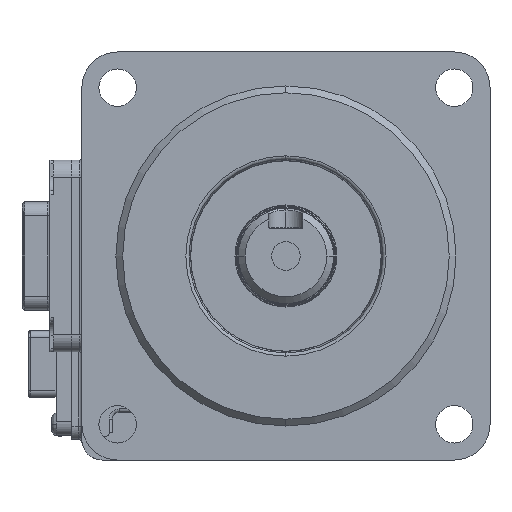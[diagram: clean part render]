
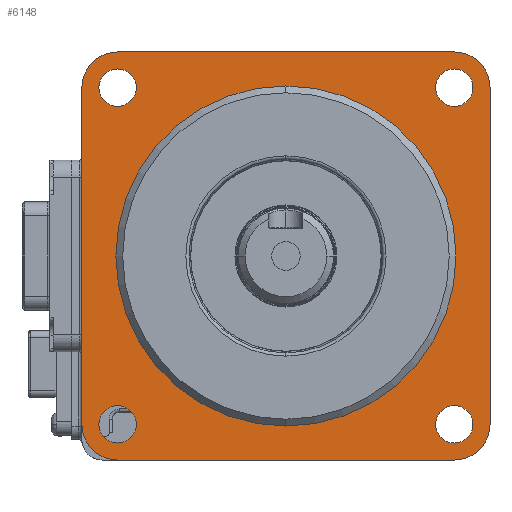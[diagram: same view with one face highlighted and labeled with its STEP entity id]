
A CAD part, left-side view. The second image highlights one B-rep face of the part: STEP entity #6148.
In plain terms, the highlighted planar face has unit normal (-1, 0, 0).
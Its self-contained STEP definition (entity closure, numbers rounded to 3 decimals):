
#2687 = VERTEX_POINT('',#2688);
#2688 = CARTESIAN_POINT('',(30.,24.749,27.499));
#2694 = EDGE_CURVE('',#2695,#2687,#2697,.T.);
#2695 = VERTEX_POINT('',#2696);
#2696 = CARTESIAN_POINT('',(30.,24.749,21.999));
#2697 = CIRCLE('',#2698,2.75);
#2698 = AXIS2_PLACEMENT_3D('',#2699,#2700,#2701);
#2699 = CARTESIAN_POINT('',(30.,24.749,24.749));
#2700 = DIRECTION('',(-1.,0.,0.));
#2701 = DIRECTION('',(0.,0.,-1.));
#2729 = VERTEX_POINT('',#2730);
#2730 = CARTESIAN_POINT('',(30.,-24.749,27.499));
#2736 = EDGE_CURVE('',#2737,#2729,#2739,.T.);
#2737 = VERTEX_POINT('',#2738);
#2738 = CARTESIAN_POINT('',(30.,-24.749,21.999));
#2739 = CIRCLE('',#2740,2.75);
#2740 = AXIS2_PLACEMENT_3D('',#2741,#2742,#2743);
#2741 = CARTESIAN_POINT('',(30.,-24.749,24.749));
#2742 = DIRECTION('',(-1.,0.,0.));
#2743 = DIRECTION('',(0.,1.,0.));
#2771 = VERTEX_POINT('',#2772);
#2772 = CARTESIAN_POINT('',(30.,24.749,-21.999));
#2778 = EDGE_CURVE('',#2779,#2771,#2781,.T.);
#2779 = VERTEX_POINT('',#2780);
#2780 = CARTESIAN_POINT('',(30.,24.749,-27.499));
#2781 = CIRCLE('',#2782,2.75);
#2782 = AXIS2_PLACEMENT_3D('',#2783,#2784,#2785);
#2783 = CARTESIAN_POINT('',(30.,24.749,-24.749));
#2784 = DIRECTION('',(-1.,0.,0.));
#2785 = DIRECTION('',(0.,-1.,0.));
#2813 = VERTEX_POINT('',#2814);
#2814 = CARTESIAN_POINT('',(30.,-24.749,-21.999));
#2820 = EDGE_CURVE('',#2821,#2813,#2823,.T.);
#2821 = VERTEX_POINT('',#2822);
#2822 = CARTESIAN_POINT('',(30.,-24.749,-27.499));
#2823 = CIRCLE('',#2824,2.75);
#2824 = AXIS2_PLACEMENT_3D('',#2825,#2826,#2827);
#2825 = CARTESIAN_POINT('',(30.,-24.749,-24.749));
#2826 = DIRECTION('',(-1.,0.,0.));
#2827 = DIRECTION('',(0.,0.,1.));
#2852 = EDGE_CURVE('',#2853,#2855,#2857,.T.);
#2853 = VERTEX_POINT('',#2854);
#2854 = CARTESIAN_POINT('',(30.,0.,25.));
#2855 = VERTEX_POINT('',#2856);
#2856 = CARTESIAN_POINT('',(30.,0.,-25.));
#2857 = CIRCLE('',#2858,25.);
#2858 = AXIS2_PLACEMENT_3D('',#2859,#2860,#2861);
#2859 = CARTESIAN_POINT('',(30.,0.,0.)
  );
#2860 = DIRECTION('',(-1.,0.,0.));
#2861 = DIRECTION('',(0.,0.,1.));
#3135 = EDGE_CURVE('',#2855,#2853,#3136,.T.);
#3136 = CIRCLE('',#3137,25.);
#3137 = AXIS2_PLACEMENT_3D('',#3138,#3139,#3140);
#3138 = CARTESIAN_POINT('',(30.,0.,0.)
  );
#3139 = DIRECTION('',(-1.,0.,0.));
#3140 = DIRECTION('',(0.,0.,1.));
#3553 = EDGE_CURVE('',#2813,#2821,#3554,.T.);
#3554 = CIRCLE('',#3555,2.75);
#3555 = AXIS2_PLACEMENT_3D('',#3556,#3557,#3558);
#3556 = CARTESIAN_POINT('',(30.,-24.749,-24.749));
#3557 = DIRECTION('',(-1.,0.,0.));
#3558 = DIRECTION('',(0.,0.,1.));
#3787 = VERTEX_POINT('',#3788);
#3788 = CARTESIAN_POINT('',(30.,24.75,30.));
#3796 = VERTEX_POINT('',#3797);
#3797 = CARTESIAN_POINT('',(30.,30.,24.75));
#3803 = EDGE_CURVE('',#3787,#3796,#3804,.T.);
#3804 = CIRCLE('',#3805,5.25);
#3805 = AXIS2_PLACEMENT_3D('',#3806,#3807,#3808);
#3806 = CARTESIAN_POINT('',(30.,24.75,24.75));
#3807 = DIRECTION('',(-1.,0.,0.));
#3808 = DIRECTION('',(0.,0.,1.));
#4242 = VERTEX_POINT('',#4243);
#4243 = CARTESIAN_POINT('',(30.,-30.,24.75));
#4251 = VERTEX_POINT('',#4252);
#4252 = CARTESIAN_POINT('',(30.,-24.75,30.));
#4258 = EDGE_CURVE('',#4242,#4251,#4259,.T.);
#4259 = CIRCLE('',#4260,5.25);
#4260 = AXIS2_PLACEMENT_3D('',#4261,#4262,#4263);
#4261 = CARTESIAN_POINT('',(30.,-24.75,24.75));
#4262 = DIRECTION('',(-1.,0.,0.));
#4263 = DIRECTION('',(0.,0.,1.));
#4290 = EDGE_CURVE('',#4251,#3787,#4291,.T.);
#4291 = LINE('',#4292,#4293);
#4292 = CARTESIAN_POINT('',(30.,30.,30.));
#4293 = VECTOR('',#4294,1.);
#4294 = DIRECTION('',(0.,1.,0.));
#5175 = EDGE_CURVE('',#2771,#2779,#5176,.T.);
#5176 = CIRCLE('',#5177,2.75);
#5177 = AXIS2_PLACEMENT_3D('',#5178,#5179,#5180);
#5178 = CARTESIAN_POINT('',(30.,24.749,-24.749));
#5179 = DIRECTION('',(-1.,0.,0.));
#5180 = DIRECTION('',(0.,-1.,0.));
#5819 = VERTEX_POINT('',#5820);
#5820 = CARTESIAN_POINT('',(30.,30.,-24.75));
#5826 = EDGE_CURVE('',#3796,#5819,#5827,.T.);
#5827 = LINE('',#5828,#5829);
#5828 = CARTESIAN_POINT('',(30.,30.,30.));
#5829 = VECTOR('',#5830,1.);
#5830 = DIRECTION('',(0.,0.,-1.));
#5847 = VERTEX_POINT('',#5848);
#5848 = CARTESIAN_POINT('',(30.,24.75,-30.));
#5854 = EDGE_CURVE('',#5819,#5847,#5855,.T.);
#5855 = CIRCLE('',#5856,5.25);
#5856 = AXIS2_PLACEMENT_3D('',#5857,#5858,#5859);
#5857 = CARTESIAN_POINT('',(30.,24.75,-24.75));
#5858 = DIRECTION('',(-1.,0.,0.));
#5859 = DIRECTION('',(0.,0.,1.));
#5876 = VERTEX_POINT('',#5877);
#5877 = CARTESIAN_POINT('',(30.,-24.75,-30.));
#5883 = EDGE_CURVE('',#5847,#5876,#5884,.T.);
#5884 = LINE('',#5885,#5886);
#5885 = CARTESIAN_POINT('',(30.,30.,-30.));
#5886 = VECTOR('',#5887,1.);
#5887 = DIRECTION('',(0.,-1.,0.));
#5900 = VERTEX_POINT('',#5901);
#5901 = CARTESIAN_POINT('',(30.,-30.,-24.75));
#5907 = EDGE_CURVE('',#5876,#5900,#5908,.T.);
#5908 = CIRCLE('',#5909,5.25);
#5909 = AXIS2_PLACEMENT_3D('',#5910,#5911,#5912);
#5910 = CARTESIAN_POINT('',(30.,-24.75,-24.75));
#5911 = DIRECTION('',(-1.,0.,0.));
#5912 = DIRECTION('',(0.,0.,1.));
#5934 = EDGE_CURVE('',#5900,#4242,#5935,.T.);
#5935 = LINE('',#5936,#5937);
#5936 = CARTESIAN_POINT('',(30.,-30.,30.));
#5937 = VECTOR('',#5938,1.);
#5938 = DIRECTION('',(0.,0.,1.));
#6134 = EDGE_CURVE('',#2729,#2737,#6135,.T.);
#6135 = CIRCLE('',#6136,2.75);
#6136 = AXIS2_PLACEMENT_3D('',#6137,#6138,#6139);
#6137 = CARTESIAN_POINT('',(30.,-24.749,24.749));
#6138 = DIRECTION('',(-1.,0.,0.));
#6139 = DIRECTION('',(0.,1.,0.));
#6148 = ADVANCED_FACE('',(#6149,#6153,#6163,#6167,#6171,#6175),#6185,.T.
  );
#6149 = FACE_BOUND('',#6150,.T.);
#6150 = EDGE_LOOP('',(#6151,#6152));
#6151 = ORIENTED_EDGE('',*,*,#6134,.F.);
#6152 = ORIENTED_EDGE('',*,*,#2736,.F.);
#6153 = FACE_BOUND('',#6154,.T.);
#6154 = EDGE_LOOP('',(#6155,#6162));
#6155 = ORIENTED_EDGE('',*,*,#6156,.F.);
#6156 = EDGE_CURVE('',#2687,#2695,#6157,.T.);
#6157 = CIRCLE('',#6158,2.75);
#6158 = AXIS2_PLACEMENT_3D('',#6159,#6160,#6161);
#6159 = CARTESIAN_POINT('',(30.,24.749,24.749));
#6160 = DIRECTION('',(-1.,0.,0.));
#6161 = DIRECTION('',(0.,0.,-1.));
#6162 = ORIENTED_EDGE('',*,*,#2694,.F.);
#6163 = FACE_BOUND('',#6164,.T.);
#6164 = EDGE_LOOP('',(#6165,#6166));
#6165 = ORIENTED_EDGE('',*,*,#5175,.F.);
#6166 = ORIENTED_EDGE('',*,*,#2778,.F.);
#6167 = FACE_BOUND('',#6168,.T.);
#6168 = EDGE_LOOP('',(#6169,#6170));
#6169 = ORIENTED_EDGE('',*,*,#3553,.F.);
#6170 = ORIENTED_EDGE('',*,*,#2820,.F.);
#6171 = FACE_BOUND('',#6172,.T.);
#6172 = EDGE_LOOP('',(#6173,#6174));
#6173 = ORIENTED_EDGE('',*,*,#2852,.F.);
#6174 = ORIENTED_EDGE('',*,*,#3135,.F.);
#6175 = FACE_BOUND('',#6176,.T.);
#6176 = EDGE_LOOP('',(#6177,#6178,#6179,#6180,#6181,#6182,#6183,#6184));
#6177 = ORIENTED_EDGE('',*,*,#5826,.T.);
#6178 = ORIENTED_EDGE('',*,*,#5854,.T.);
#6179 = ORIENTED_EDGE('',*,*,#5883,.T.);
#6180 = ORIENTED_EDGE('',*,*,#5907,.T.);
#6181 = ORIENTED_EDGE('',*,*,#5934,.T.);
#6182 = ORIENTED_EDGE('',*,*,#4258,.T.);
#6183 = ORIENTED_EDGE('',*,*,#4290,.T.);
#6184 = ORIENTED_EDGE('',*,*,#3803,.T.);
#6185 = PLANE('',#6186);
#6186 = AXIS2_PLACEMENT_3D('',#6187,#6188,#6189);
#6187 = CARTESIAN_POINT('',(30.,0.,0.)
  );
#6188 = DIRECTION('',(-1.,0.,0.));
#6189 = DIRECTION('',(0.,0.,1.));
